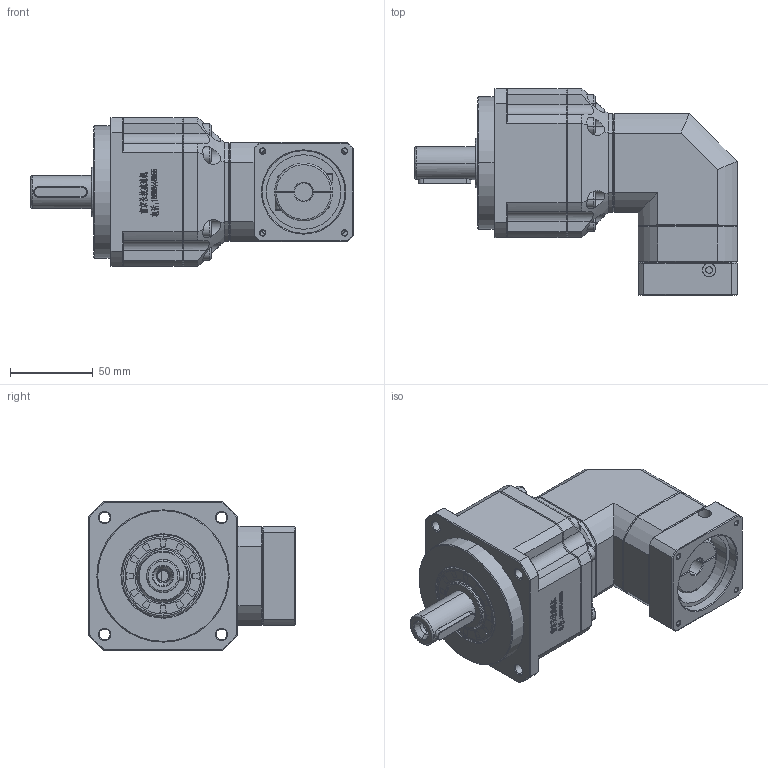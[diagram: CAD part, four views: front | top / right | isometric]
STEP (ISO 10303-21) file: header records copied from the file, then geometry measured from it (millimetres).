
FILE_DESCRIPTION (( 'STEP AP214' ), '1' );
FILE_NAME ('ZPBR090-D20-L2-P1-11-50-70-M4.step', '2024-06-07T18:30:11', ( 'Windows 蚚誧' ), ( 'Organization' ), 'SwSTEP 2.0', 'SolidWorks 2016', '' );
FILE_SCHEMA (( 'AUTOMOTIVE_DESIGN' ));
Length unit declared in the file: millimetre
Products named in the file (1): ZPBR090-D20-L2-P1-11-50-70-M4
Bounding box: 195 x 125 x 90 mm (x, y, z)
Surface area: 87062.7 mm2 (no closed solid volume)
Topology: 0 solids, 30 shells, 2021 faces, 5376 edges, 3441 vertices
Faces by surface type: plane 1083, bspline 371, cylinder 285, cone 255, torus 27
Entity records: 97484 total; most frequent: CARTESIAN_POINT 46385, ORIENTED_EDGE 10714, DIRECTION 8054, EDGE_CURVE 5376, VERTEX_POINT 3441, LINE 3378, VECTOR 3378, AXIS2_PLACEMENT_3D 2338
